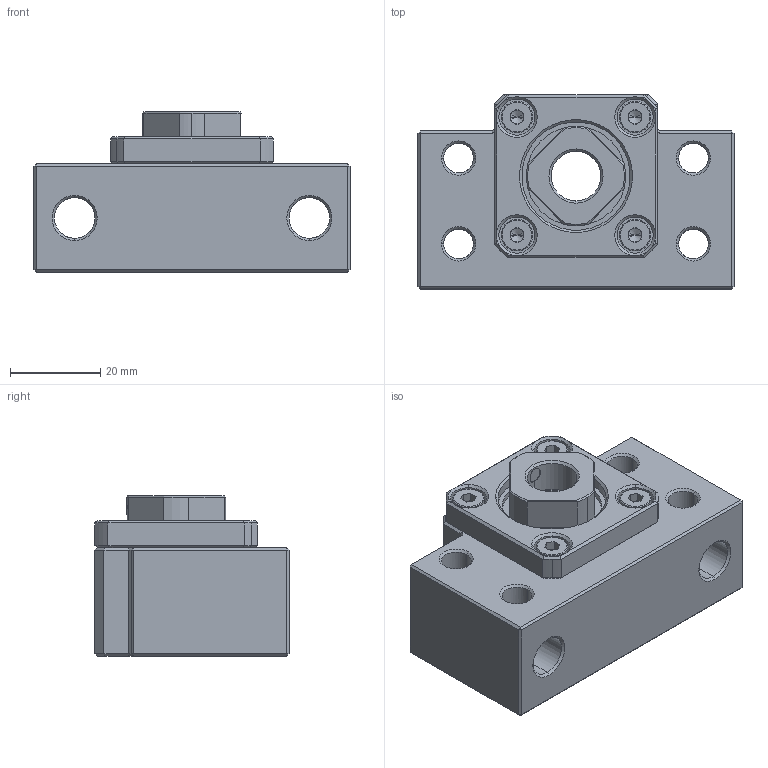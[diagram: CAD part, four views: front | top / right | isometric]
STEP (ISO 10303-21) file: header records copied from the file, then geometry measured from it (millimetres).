
FILE_DESCRIPTION (( 'STEP AP203' ), '1' );
FILE_NAME ('ASGK-12_203.STEP', '2013-02-27T23:46:50', ( '' ), ( '' ), 'SwSTEP 2.0', 'SolidWorks 2012', '' );
FILE_SCHEMA (( 'CONFIG_CONTROL_DESIGN' ));
Length unit declared in the file: millimetre
Products named in the file (1): ASGK-12_203
Bounding box: 70 x 43 x 35.5 mm (x, y, z)
Volume: 60604 mm3; surface area: 20056.2 mm2
Topology: 1 solids, 16 shells, 460 faces, 1041 edges, 601 vertices
Faces by surface type: plane 181, cylinder 127, cone 112, torus 40
Entity records: 13310 total; most frequent: CARTESIAN_POINT 2854, DIRECTION 2311, ORIENTED_EDGE 2046, EDGE_CURVE 1023, AXIS2_PLACEMENT_3D 906, VERTEX_POINT 601, EDGE_LOOP 508, VECTOR 499
